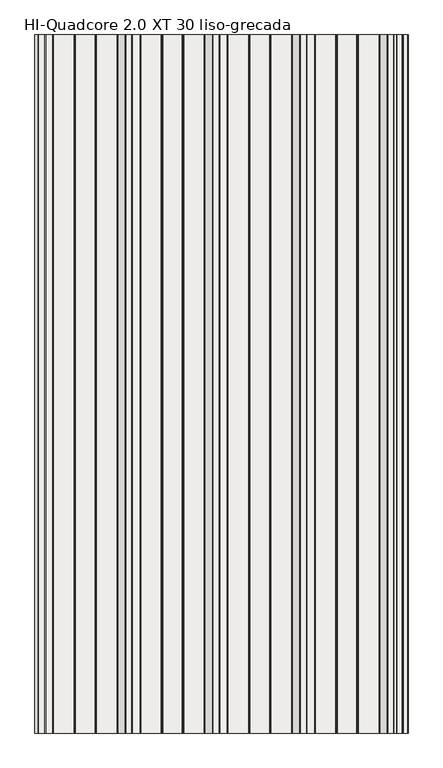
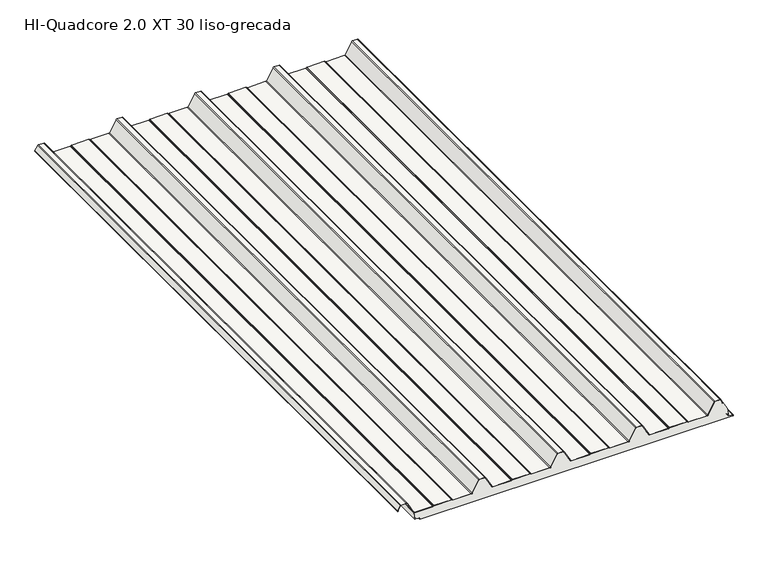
"""IFC4 building model written with IfcOpenShell, lengths in millimetres: slab geometry, HI_QuadCore2.0XT-XT DUAL : HI-Quadcore 2.0 XT 30 liso-grecada."""

from ifc_helpers import new_model, si_unit, point, frame, frame_2d, origin, place, context, project, spatial, polyline, circle_curve, trimmed, segment, composite_curve, outline, extrude, source, transform, mapped, element, save


def hi_quadcore_2_0_xt_30_liso_grecada_0a3880c4(model_context):
    return source(origin(), model_context, "Body", "SweptSolid", [
        extrude(outline(composite_curve([segment(polyline([(68.1649405, 138.5141429), (53.6579587, 130.3539656)]), True, "CONTINUOUS"), segment(trimmed(circle_curve(frame_2d((53.0451321, 131.443435)), 1.25), [point((53.6579587, 130.3539656))], [point((52.689225, 132.6416963))], False, "CARTESIAN"), True, "CONTINUOUS"), segment(polyline([(52.689225, 132.6416963), (55.7359115, 133.437141), (55.9380053, 132.663088), (52.9074492, 131.8718547)]), True, "CONTINUOUS"), segment(trimmed(circle_curve(frame_2d((53.0451321, 131.443435)), 0.45), [point((52.9074492, 131.8718547))], [point((53.2657497, 131.051226))], True, "CARTESIAN"), True, "CONTINUOUS"), segment(polyline([(53.2657497, 131.051226), (67.7727315, 139.2114033)]), True, "CONTINUOUS"), segment(trimmed(circle_curve(frame_2d((66.4, 141.6518148)), 2.8), [point((67.7727315, 139.2114033))], [point((69.2, 141.6518148))], True, "CARTESIAN"), True, "CONTINUOUS"), segment(polyline([(69.2, 141.6518148), (69.2, 158.9311117)]), True, "CONTINUOUS"), segment(trimmed(circle_curve(frame_2d((66.4, 158.9311117)), 2.8), [point((69.2, 158.9311117))], [point((67.5457267, 161.4859719))], True, "CARTESIAN"), True, "CONTINUOUS"), segment(polyline([(67.5457267, 161.4859719), (31.2048889, 181.3052775)]), True, "CONTINUOUS"), segment(trimmed(circle_curve(frame_2d((33.0, 184.6545425)), 3.8), [point((31.2048889, 181.3052775))], [point((29.2, 184.6545425))], False, "CARTESIAN"), True, "CONTINUOUS"), segment(polyline([(29.2, 184.6545425), (29.2, 242.4489557)]), True, "CONTINUOUS"), segment(trimmed(circle_curve(frame_2d((33.0, 242.4489557)), 3.8), [point((29.2, 242.4489557))], [point((29.6973596, 244.328468))], False, "CARTESIAN"), True, "CONTINUOUS"), segment(polyline([(29.6973596, 244.328468), (30.912055, 246.4629056)]), True, "CONTINUOUS"), segment(trimmed(circle_curve(frame_2d((29.0, 247.5510443)), 2.2), [point((30.912055, 246.4629056))], [point((31.2, 247.5510443))], True, "CARTESIAN"), True, "CONTINUOUS"), segment(polyline([(31.2, 247.5510443), (31.2, 302.4489557)]), True, "CONTINUOUS"), segment(trimmed(circle_curve(frame_2d((29.0, 302.4489557)), 2.2), [point((31.2, 302.4489557))], [point((30.912055, 303.5370944))], True, "CARTESIAN"), True, "CONTINUOUS"), segment(polyline([(30.912055, 303.5370944), (29.6973596, 305.671532)]), True, "CONTINUOUS"), segment(trimmed(circle_curve(frame_2d((33.0, 307.5510443)), 3.8), [point((29.6973596, 305.671532))], [point((29.2, 307.5510443))], False, "CARTESIAN"), True, "CONTINUOUS"), segment(polyline([(29.2, 307.5510443), (29.2, 365.7454575)]), True, "CONTINUOUS"), segment(trimmed(circle_curve(frame_2d((33.0, 365.7454575)), 3.8), [point((29.2, 365.7454575))], [point((31.1370073, 369.0574446))], False, "CARTESIAN"), True, "CONTINUOUS"), segment(polyline([(31.1370073, 369.0574446), (68.0785747, 389.8370763)]), True, "CONTINUOUS"), segment(trimmed(circle_curve(frame_2d((67.0, 391.7545425)), 2.2), [point((68.0785747, 389.8370763))], [point((69.2, 391.7545425))], True, "CARTESIAN"), True, "CONTINUOUS"), segment(polyline([(69.2, 391.7545425), (69.2, 408.2454575)]), True, "CONTINUOUS"), segment(trimmed(circle_curve(frame_2d((67.0, 408.2454575)), 2.2), [point((69.2, 408.2454575))], [point((68.0785747, 410.1629237))], True, "CARTESIAN"), True, "CONTINUOUS"), segment(polyline([(68.0785747, 410.1629237), (31.1370073, 430.9425554)]), True, "CONTINUOUS"), segment(trimmed(circle_curve(frame_2d((33.0, 434.2545425)), 3.8), [point((31.1370073, 430.9425554))], [point((29.2, 434.2545425))], False, "CARTESIAN"), True, "CONTINUOUS"), segment(polyline([(29.2, 434.2545425), (29.2, 492.4489557)]), True, "CONTINUOUS"), segment(trimmed(circle_curve(frame_2d((33.0, 492.4489557)), 3.8), [point((29.2, 492.4489557))], [point((29.6973596, 494.328468))], False, "CARTESIAN"), True, "CONTINUOUS"), segment(polyline([(29.6973596, 494.328468), (30.912055, 496.4629056)]), True, "CONTINUOUS"), segment(trimmed(circle_curve(frame_2d((29.0, 497.5510443)), 2.2), [point((30.912055, 496.4629056))], [point((31.2, 497.5510443))], True, "CARTESIAN"), True, "CONTINUOUS"), segment(polyline([(31.2, 497.5510443), (31.2, 552.4489557)]), True, "CONTINUOUS"), segment(trimmed(circle_curve(frame_2d((29.0, 552.4489557)), 2.2), [point((31.2, 552.4489557))], [point((30.912055, 553.5370944))], True, "CARTESIAN"), True, "CONTINUOUS"), segment(polyline([(30.912055, 553.5370944), (29.6973596, 555.671532)]), True, "CONTINUOUS"), segment(trimmed(circle_curve(frame_2d((33.0, 557.5510443)), 3.8), [point((29.6973596, 555.671532))], [point((29.2, 557.5510443))], False, "CARTESIAN"), True, "CONTINUOUS"), segment(polyline([(29.2, 557.5510443), (29.2, 615.7454575)]), True, "CONTINUOUS"), segment(trimmed(circle_curve(frame_2d((33.0, 615.7454575)), 3.8), [point((29.2, 615.7454575))], [point((31.1370073, 619.0574446))], False, "CARTESIAN"), True, "CONTINUOUS"), segment(polyline([(31.1370073, 619.0574446), (68.0785747, 639.8370763)]), True, "CONTINUOUS"), segment(trimmed(circle_curve(frame_2d((67.0, 641.7545425)), 2.2), [point((68.0785747, 639.8370763))], [point((69.2, 641.7545425))], True, "CARTESIAN"), True, "CONTINUOUS"), segment(polyline([(69.2, 641.7545425), (69.2, 658.2454575)]), True, "CONTINUOUS"), segment(trimmed(circle_curve(frame_2d((67.0, 658.2454575)), 2.2), [point((69.2, 658.2454575))], [point((68.0785747, 660.1629237))], True, "CARTESIAN"), True, "CONTINUOUS"), segment(polyline([(68.0785747, 660.1629237), (31.1370073, 680.9425554)]), True, "CONTINUOUS"), segment(trimmed(circle_curve(frame_2d((33.0, 684.2545425)), 3.8), [point((31.1370073, 680.9425554))], [point((29.2, 684.2545425))], False, "CARTESIAN"), True, "CONTINUOUS"), segment(polyline([(29.2, 684.2545425), (29.2, 742.4489557)]), True, "CONTINUOUS"), segment(trimmed(circle_curve(frame_2d((33.0, 742.4489557)), 3.8), [point((29.2, 742.4489557))], [point((29.6973596, 744.328468))], False, "CARTESIAN"), True, "CONTINUOUS"), segment(polyline([(29.6973596, 744.328468), (30.912055, 746.4629056)]), True, "CONTINUOUS"), segment(trimmed(circle_curve(frame_2d((29.0, 747.5510443)), 2.2), [point((30.912055, 746.4629056))], [point((31.2, 747.5510443))], True, "CARTESIAN"), True, "CONTINUOUS"), segment(polyline([(31.2, 747.5510443), (31.2, 802.4489557)]), True, "CONTINUOUS"), segment(trimmed(circle_curve(frame_2d((29.0, 802.4489557)), 2.2), [point((31.2, 802.4489557))], [point((30.912055, 803.5370944))], True, "CARTESIAN"), True, "CONTINUOUS"), segment(polyline([(30.912055, 803.5370944), (29.6973596, 805.671532)]), True, "CONTINUOUS"), segment(trimmed(circle_curve(frame_2d((33.0, 807.5510443)), 3.8), [point((29.6973596, 805.671532))], [point((29.2, 807.5510443))], False, "CARTESIAN"), True, "CONTINUOUS"), segment(polyline([(29.2, 807.5510443), (29.2, 865.7454575)]), True, "CONTINUOUS"), segment(trimmed(circle_curve(frame_2d((33.0, 865.7454575)), 3.8), [point((29.2, 865.7454575))], [point((31.1370073, 869.0574446))], False, "CARTESIAN"), True, "CONTINUOUS"), segment(polyline([(31.1370073, 869.0574446), (68.0785747, 889.8370763)]), True, "CONTINUOUS"), segment(trimmed(circle_curve(frame_2d((67.0, 891.7545425)), 2.2), [point((68.0785747, 889.8370763))], [point((69.2, 891.7545425))], True, "CARTESIAN"), True, "CONTINUOUS"), segment(polyline([(69.2, 891.7545425), (69.2, 908.2454575)]), True, "CONTINUOUS"), segment(trimmed(circle_curve(frame_2d((67.0, 908.2454575)), 2.2), [point((69.2, 908.2454575))], [point((68.0785747, 910.1629237))], True, "CARTESIAN"), True, "CONTINUOUS"), segment(polyline([(68.0785747, 910.1629237), (31.1370073, 930.9425554)]), True, "CONTINUOUS"), segment(trimmed(circle_curve(frame_2d((33.0, 934.2545425)), 3.8), [point((31.1370073, 930.9425554))], [point((29.2, 934.2545425))], False, "CARTESIAN"), True, "CONTINUOUS"), segment(polyline([(29.2, 934.2545425), (29.2, 992.4489557)]), True, "CONTINUOUS"), segment(trimmed(circle_curve(frame_2d((33.0, 992.4489557)), 3.8), [point((29.2, 992.4489557))], [point((29.6973596, 994.328468))], False, "CARTESIAN"), True, "CONTINUOUS"), segment(polyline([(29.6973596, 994.328468), (30.912055, 996.4629056)]), True, "CONTINUOUS"), segment(trimmed(circle_curve(frame_2d((29.0, 997.5510443)), 2.2), [point((30.912055, 996.4629056))], [point((31.2, 997.5510443))], True, "CARTESIAN"), True, "CONTINUOUS"), segment(polyline([(31.2, 997.5510443), (31.2, 1052.4489557)]), True, "CONTINUOUS"), segment(trimmed(circle_curve(frame_2d((29.0, 1052.4489557)), 2.2), [point((31.2, 1052.4489557))], [point((30.912055, 1053.5370944))], True, "CARTESIAN"), True, "CONTINUOUS"), segment(polyline([(30.912055, 1053.5370944), (29.6973596, 1055.671532)]), True, "CONTINUOUS"), segment(trimmed(circle_curve(frame_2d((33.0, 1057.5510443)), 3.8), [point((29.6973596, 1055.671532))], [point((29.2, 1057.5510443))], False, "CARTESIAN"), True, "CONTINUOUS"), segment(polyline([(29.2, 1057.5510443), (29.2, 1116.4208923)]), True, "CONTINUOUS"), segment(trimmed(circle_curve(frame_2d((33.0, 1116.4208923)), 3.8), [point((29.2, 1116.4208923))], [point((31.1583504, 1119.7447946))], False, "CARTESIAN"), True, "CONTINUOUS"), segment(polyline([(31.1583504, 1119.7447946), (68.0662182, 1140.1940602)]), True, "CONTINUOUS"), segment(trimmed(circle_curve(frame_2d((67.0, 1142.1184247)), 2.2), [point((68.0662182, 1140.1940602))], [point((69.2, 1142.1184247))], True, "CARTESIAN"), True, "CONTINUOUS"), segment(polyline([(69.2, 1142.1184247), (69.2, 1157.4945491)]), True, "CONTINUOUS"), segment(trimmed(circle_curve(frame_2d((67.0, 1157.4945491)), 2.2), [point((69.2, 1157.4945491))], [point((68.0785747, 1159.4120152))], True, "CARTESIAN"), True, "CONTINUOUS"), segment(polyline([(68.0785747, 1159.4120152), (57.5275176, 1165.3469849)]), True, "CONTINUOUS"), segment(trimmed(circle_curve(frame_2d((56.9392041, 1164.3010942)), 1.2), [point((57.5275176, 1165.3469849))], [point((56.3392623, 1165.3403583))], True, "CARTESIAN"), True, "CONTINUOUS"), segment(polyline([(56.3392623, 1165.3403583), (54.7281681, 1164.4103128), (54.3282068, 1165.1031555), (55.939301, 1166.033201)]), True, "CONTINUOUS"), segment(trimmed(circle_curve(frame_2d((56.9392041, 1164.3010942)), 2.0), [point((55.939301, 1166.033201))], [point((57.9197266, 1166.0442453))], False, "CARTESIAN"), True, "CONTINUOUS"), segment(polyline([(57.9197266, 1166.0442453), (68.4707837, 1160.1092757)]), True, "CONTINUOUS"), segment(trimmed(circle_curve(frame_2d((67.0, 1157.4945491)), 3.0), [point((68.4707837, 1160.1092757))], [point((70.0, 1157.4945491))], False, "CARTESIAN"), True, "CONTINUOUS"), segment(polyline([(70.0, 1157.4945491), (70.0, 1142.1184247)]), True, "CONTINUOUS"), segment(trimmed(circle_curve(frame_2d((67.0, 1142.1184247)), 3.0), [point((70.0, 1142.1184247))], [point((68.4539339, 1139.4942913))], False, "CARTESIAN"), True, "CONTINUOUS"), segment(polyline([(68.4539339, 1139.4942913), (31.5460661, 1119.0450257)]), True, "CONTINUOUS"), segment(trimmed(circle_curve(frame_2d((33.0, 1116.4208923)), 3.0), [point((31.5460661, 1119.0450257))], [point((30.0, 1116.4208923))], True, "CARTESIAN"), True, "CONTINUOUS"), segment(polyline([(30.0, 1116.4208923), (30.0, 1057.5510443)]), True, "CONTINUOUS"), segment(trimmed(circle_curve(frame_2d((33.0, 1057.5510443)), 3.0), [point((30.0, 1057.5510443))], [point((30.3926523, 1056.0672188))], True, "CARTESIAN"), True, "CONTINUOUS"), segment(polyline([(30.3926523, 1056.0672188), (31.6073477, 1053.9327812)]), True, "CONTINUOUS"), segment(trimmed(circle_curve(frame_2d((29.0, 1052.4489557)), 3.0), [point((31.6073477, 1053.9327812))], [point((32.0, 1052.4489557))], False, "CARTESIAN"), True, "CONTINUOUS"), segment(polyline([(32.0, 1052.4489557), (32.0, 997.5510443)]), True, "CONTINUOUS"), segment(trimmed(circle_curve(frame_2d((29.0, 997.5510443)), 3.0), [point((32.0, 997.5510443))], [point((31.6073477, 996.0672188))], False, "CARTESIAN"), True, "CONTINUOUS"), segment(polyline([(31.6073477, 996.0672188), (30.3926523, 993.9327812)]), True, "CONTINUOUS"), segment(trimmed(circle_curve(frame_2d((33.0, 992.4489557)), 3.0), [point((30.3926523, 993.9327812))], [point((30.0, 992.4489557))], True, "CARTESIAN"), True, "CONTINUOUS"), segment(polyline([(30.0, 992.4489557), (30.0, 934.2545425)]), True, "CONTINUOUS"), segment(trimmed(circle_curve(frame_2d((33.0, 934.2545425)), 3.0), [point((30.0, 934.2545425))], [point((31.5292163, 931.6398158))], True, "CARTESIAN"), True, "CONTINUOUS"), segment(polyline([(31.5292163, 931.6398158), (68.4707837, 910.8601842)]), True, "CONTINUOUS"), segment(trimmed(circle_curve(frame_2d((67.0, 908.2454575)), 3.0), [point((68.4707837, 910.8601842))], [point((70.0, 908.2454575))], False, "CARTESIAN"), True, "CONTINUOUS"), segment(polyline([(70.0, 908.2454575), (70.0, 891.7545425)]), True, "CONTINUOUS"), segment(trimmed(circle_curve(frame_2d((67.0, 891.7545425)), 3.0), [point((70.0, 891.7545425))], [point((68.4707837, 889.1398158))], False, "CARTESIAN"), True, "CONTINUOUS"), segment(polyline([(68.4707837, 889.1398158), (31.5292163, 868.3601842)]), True, "CONTINUOUS"), segment(trimmed(circle_curve(frame_2d((33.0, 865.7454575)), 3.0), [point((31.5292163, 868.3601842))], [point((30.0, 865.7454575))], True, "CARTESIAN"), True, "CONTINUOUS"), segment(polyline([(30.0, 865.7454575), (30.0, 807.5510443)]), True, "CONTINUOUS"), segment(trimmed(circle_curve(frame_2d((33.0, 807.5510443)), 3.0), [point((30.0, 807.5510443))], [point((30.3926523, 806.0672188))], True, "CARTESIAN"), True, "CONTINUOUS"), segment(polyline([(30.3926523, 806.0672188), (31.6073477, 803.9327812)]), True, "CONTINUOUS"), segment(trimmed(circle_curve(frame_2d((29.0, 802.4489557)), 3.0), [point((31.6073477, 803.9327812))], [point((32.0, 802.4489557))], False, "CARTESIAN"), True, "CONTINUOUS"), segment(polyline([(32.0, 802.4489557), (32.0, 747.5510443)]), True, "CONTINUOUS"), segment(trimmed(circle_curve(frame_2d((29.0, 747.5510443)), 3.0), [point((32.0, 747.5510443))], [point((31.6073477, 746.0672188))], False, "CARTESIAN"), True, "CONTINUOUS"), segment(polyline([(31.6073477, 746.0672188), (30.3926523, 743.9327812)]), True, "CONTINUOUS"), segment(trimmed(circle_curve(frame_2d((33.0, 742.4489557)), 3.0), [point((30.3926523, 743.9327812))], [point((30.0, 742.4489557))], True, "CARTESIAN"), True, "CONTINUOUS"), segment(polyline([(30.0, 742.4489557), (30.0, 684.2545425)]), True, "CONTINUOUS"), segment(trimmed(circle_curve(frame_2d((33.0, 684.2545425)), 3.0), [point((30.0, 684.2545425))], [point((31.5292163, 681.6398158))], True, "CARTESIAN"), True, "CONTINUOUS"), segment(polyline([(31.5292163, 681.6398158), (68.4707837, 660.8601842)]), True, "CONTINUOUS"), segment(trimmed(circle_curve(frame_2d((67.0, 658.2454575)), 3.0), [point((68.4707837, 660.8601842))], [point((70.0, 658.2454575))], False, "CARTESIAN"), True, "CONTINUOUS"), segment(polyline([(70.0, 658.2454575), (70.0, 641.7545425)]), True, "CONTINUOUS"), segment(trimmed(circle_curve(frame_2d((67.0, 641.7545425)), 3.0), [point((70.0, 641.7545425))], [point((68.4707837, 639.1398158))], False, "CARTESIAN"), True, "CONTINUOUS"), segment(polyline([(68.4707837, 639.1398158), (31.5292163, 618.3601842)]), True, "CONTINUOUS"), segment(trimmed(circle_curve(frame_2d((33.0, 615.7454575)), 3.0), [point((31.5292163, 618.3601842))], [point((30.0, 615.7454575))], True, "CARTESIAN"), True, "CONTINUOUS"), segment(polyline([(30.0, 615.7454575), (30.0, 557.5510443)]), True, "CONTINUOUS"), segment(trimmed(circle_curve(frame_2d((33.0, 557.5510443)), 3.0), [point((30.0, 557.5510443))], [point((30.3926523, 556.0672188))], True, "CARTESIAN"), True, "CONTINUOUS"), segment(polyline([(30.3926523, 556.0672188), (31.6073477, 553.9327812)]), True, "CONTINUOUS"), segment(trimmed(circle_curve(frame_2d((29.0, 552.4489557)), 3.0), [point((31.6073477, 553.9327812))], [point((32.0, 552.4489557))], False, "CARTESIAN"), True, "CONTINUOUS"), segment(polyline([(32.0, 552.4489557), (32.0, 497.5510443)]), True, "CONTINUOUS"), segment(trimmed(circle_curve(frame_2d((29.0, 497.5510443)), 3.0), [point((32.0, 497.5510443))], [point((31.6073477, 496.0672188))], False, "CARTESIAN"), True, "CONTINUOUS"), segment(polyline([(31.6073477, 496.0672188), (30.3926523, 493.9327812)]), True, "CONTINUOUS"), segment(trimmed(circle_curve(frame_2d((33.0, 492.4489557)), 3.0), [point((30.3926523, 493.9327812))], [point((30.0, 492.4489557))], True, "CARTESIAN"), True, "CONTINUOUS"), segment(polyline([(30.0, 492.4489557), (30.0, 434.2545425)]), True, "CONTINUOUS"), segment(trimmed(circle_curve(frame_2d((33.0, 434.2545425)), 3.0), [point((30.0, 434.2545425))], [point((31.5292163, 431.6398158))], True, "CARTESIAN"), True, "CONTINUOUS"), segment(polyline([(31.5292163, 431.6398158), (68.4707837, 410.8601842)]), True, "CONTINUOUS"), segment(trimmed(circle_curve(frame_2d((67.0, 408.2454575)), 3.0), [point((68.4707837, 410.8601842))], [point((70.0, 408.2454575))], False, "CARTESIAN"), True, "CONTINUOUS"), segment(polyline([(70.0, 408.2454575), (70.0, 391.7545425)]), True, "CONTINUOUS"), segment(trimmed(circle_curve(frame_2d((67.0, 391.7545425)), 3.0), [point((70.0, 391.7545425))], [point((68.4707837, 389.1398158))], False, "CARTESIAN"), True, "CONTINUOUS"), segment(polyline([(68.4707837, 389.1398158), (31.5292163, 368.3601842)]), True, "CONTINUOUS"), segment(trimmed(circle_curve(frame_2d((33.0, 365.7454575)), 3.0), [point((31.5292163, 368.3601842))], [point((30.0, 365.7454575))], True, "CARTESIAN"), True, "CONTINUOUS"), segment(polyline([(30.0, 365.7454575), (30.0, 307.5510443)]), True, "CONTINUOUS"), segment(trimmed(circle_curve(frame_2d((33.0, 307.5510443)), 3.0), [point((30.0, 307.5510443))], [point((30.3926523, 306.0672188))], True, "CARTESIAN"), True, "CONTINUOUS"), segment(polyline([(30.3926523, 306.0672188), (31.6073477, 303.9327812)]), True, "CONTINUOUS"), segment(trimmed(circle_curve(frame_2d((29.0, 302.4489557)), 3.0), [point((31.6073477, 303.9327812))], [point((32.0, 302.4489557))], False, "CARTESIAN"), True, "CONTINUOUS"), segment(polyline([(32.0, 302.4489557), (32.0, 247.5510443)]), True, "CONTINUOUS"), segment(trimmed(circle_curve(frame_2d((29.0, 247.5510443)), 3.0), [point((32.0, 247.5510443))], [point((31.6073477, 246.0672188))], False, "CARTESIAN"), True, "CONTINUOUS"), segment(polyline([(31.6073477, 246.0672188), (30.3926523, 243.9327812)]), True, "CONTINUOUS"), segment(trimmed(circle_curve(frame_2d((33.0, 242.4489557)), 3.0), [point((30.3926523, 243.9327812))], [point((30.0, 242.4489557))], True, "CARTESIAN"), True, "CONTINUOUS"), segment(polyline([(30.0, 242.4489557), (30.0, 184.6545425)]), True, "CONTINUOUS"), segment(trimmed(circle_curve(frame_2d((33.0, 184.6545425)), 3.0), [point((30.0, 184.6545425))], [point((31.5852209, 182.0090935))], True, "CARTESIAN"), True, "CONTINUOUS"), segment(polyline([(31.5852209, 182.0090935), (67.9031732, 162.2022691)]), True, "CONTINUOUS"), segment(trimmed(circle_curve(frame_2d((66.4, 158.9311117)), 3.6), [point((67.9031732, 162.2022691))], [point((70.0, 158.9311117))], False, "CARTESIAN"), True, "CONTINUOUS"), segment(polyline([(70.0, 158.9311117), (70.0, 141.6518148)]), True, "CONTINUOUS"), segment(trimmed(circle_curve(frame_2d((66.4, 141.6518148)), 3.6), [point((70.0, 141.6518148))], [point((68.1649405, 138.5141429))], False, "CARTESIAN"), True, "CONTINUOUS")], self_intersect=False)), frame((0.0, 0.0, 0.0), z_axis=(0.0, 1.0, 0.0), x_axis=(0.0, 0.0, 1.0)), (0.0, 0.0, 1.0), 2000.0),
        extrude(outline(composite_curve([segment(polyline([(31.2667387, 1181.036551), (57.9197266, 1166.0442453)]), True, "CONTINUOUS"), segment(trimmed(circle_curve(frame_2d((56.9392041, 1164.3010942)), 2.0), [point((57.9197266, 1166.0442453))], [point((55.939301, 1166.033201))], True, "CARTESIAN"), True, "CONTINUOUS"), segment(polyline([(55.939301, 1166.033201), (54.3282068, 1165.1031555), (54.7281681, 1164.4103128), (56.3392623, 1165.3403583)]), True, "CONTINUOUS"), segment(trimmed(circle_curve(frame_2d((56.9392041, 1164.3010942)), 1.2), [point((56.3392623, 1165.3403583))], [point((57.5275176, 1165.3469849))], False, "CARTESIAN"), True, "CONTINUOUS"), segment(polyline([(57.5275176, 1165.3469849), (68.0785747, 1159.4120152)]), True, "CONTINUOUS"), segment(trimmed(circle_curve(frame_2d((67.0, 1157.4945491)), 2.2), [point((68.0785747, 1159.4120152))], [point((69.2, 1157.4945491))], False, "CARTESIAN"), True, "CONTINUOUS"), segment(polyline([(69.2, 1157.4945491), (69.2, 1142.1184247)]), True, "CONTINUOUS"), segment(trimmed(circle_curve(frame_2d((67.0, 1142.1184247)), 2.2), [point((69.2, 1142.1184247))], [point((68.0662182, 1140.1940602))], False, "CARTESIAN"), True, "CONTINUOUS"), segment(polyline([(68.0662182, 1140.1940602), (31.1583504, 1119.7447946)]), True, "CONTINUOUS"), segment(trimmed(circle_curve(frame_2d((33.0, 1116.4208923)), 3.8), [point((31.1583504, 1119.7447946))], [point((29.2, 1116.4208923))], True, "CARTESIAN"), True, "CONTINUOUS"), segment(polyline([(29.2, 1116.4208923), (29.2, 1057.5510443)]), True, "CONTINUOUS"), segment(trimmed(circle_curve(frame_2d((33.0, 1057.5510443)), 3.8), [point((29.2, 1057.5510443))], [point((29.6973596, 1055.671532))], True, "CARTESIAN"), True, "CONTINUOUS"), segment(polyline([(29.6973596, 1055.671532), (30.912055, 1053.5370944)]), True, "CONTINUOUS"), segment(trimmed(circle_curve(frame_2d((29.0, 1052.4489557)), 2.2), [point((30.912055, 1053.5370944))], [point((31.2, 1052.4489557))], False, "CARTESIAN"), True, "CONTINUOUS"), segment(polyline([(31.2, 1052.4489557), (31.2, 997.5510443)]), True, "CONTINUOUS"), segment(trimmed(circle_curve(frame_2d((29.0, 997.5510443)), 2.2), [point((31.2, 997.5510443))], [point((30.912055, 996.4629056))], False, "CARTESIAN"), True, "CONTINUOUS"), segment(polyline([(30.912055, 996.4629056), (29.6973596, 994.328468)]), True, "CONTINUOUS"), segment(trimmed(circle_curve(frame_2d((33.0, 992.4489557)), 3.8), [point((29.6973596, 994.328468))], [point((29.2, 992.4489557))], True, "CARTESIAN"), True, "CONTINUOUS"), segment(polyline([(29.2, 992.4489557), (29.2, 934.2545425)]), True, "CONTINUOUS"), segment(trimmed(circle_curve(frame_2d((33.0, 934.2545425)), 3.8), [point((29.2, 934.2545425))], [point((31.1370073, 930.9425554))], True, "CARTESIAN"), True, "CONTINUOUS"), segment(polyline([(31.1370073, 930.9425554), (68.0785747, 910.1629237)]), True, "CONTINUOUS"), segment(trimmed(circle_curve(frame_2d((67.0, 908.2454575)), 2.2), [point((68.0785747, 910.1629237))], [point((69.2, 908.2454575))], False, "CARTESIAN"), True, "CONTINUOUS"), segment(polyline([(69.2, 908.2454575), (69.2, 891.7545425)]), True, "CONTINUOUS"), segment(trimmed(circle_curve(frame_2d((67.0, 891.7545425)), 2.2), [point((69.2, 891.7545425))], [point((68.0785747, 889.8370763))], False, "CARTESIAN"), True, "CONTINUOUS"), segment(polyline([(68.0785747, 889.8370763), (31.1370073, 869.0574446)]), True, "CONTINUOUS"), segment(trimmed(circle_curve(frame_2d((33.0, 865.7454575)), 3.8), [point((31.1370073, 869.0574446))], [point((29.2, 865.7454575))], True, "CARTESIAN"), True, "CONTINUOUS"), segment(polyline([(29.2, 865.7454575), (29.2, 807.5510443)]), True, "CONTINUOUS"), segment(trimmed(circle_curve(frame_2d((33.0, 807.5510443)), 3.8), [point((29.2, 807.5510443))], [point((29.6973596, 805.671532))], True, "CARTESIAN"), True, "CONTINUOUS"), segment(polyline([(29.6973596, 805.671532), (30.912055, 803.5370944)]), True, "CONTINUOUS"), segment(trimmed(circle_curve(frame_2d((29.0, 802.4489557)), 2.2), [point((30.912055, 803.5370944))], [point((31.2, 802.4489557))], False, "CARTESIAN"), True, "CONTINUOUS"), segment(polyline([(31.2, 802.4489557), (31.2, 747.5510443)]), True, "CONTINUOUS"), segment(trimmed(circle_curve(frame_2d((29.0, 747.5510443)), 2.2), [point((31.2, 747.5510443))], [point((30.912055, 746.4629056))], False, "CARTESIAN"), True, "CONTINUOUS"), segment(polyline([(30.912055, 746.4629056), (29.6973596, 744.328468)]), True, "CONTINUOUS"), segment(trimmed(circle_curve(frame_2d((33.0, 742.4489557)), 3.8), [point((29.6973596, 744.328468))], [point((29.2, 742.4489557))], True, "CARTESIAN"), True, "CONTINUOUS"), segment(polyline([(29.2, 742.4489557), (29.2, 684.2545425)]), True, "CONTINUOUS"), segment(trimmed(circle_curve(frame_2d((33.0, 684.2545425)), 3.8), [point((29.2, 684.2545425))], [point((31.1370073, 680.9425554))], True, "CARTESIAN"), True, "CONTINUOUS"), segment(polyline([(31.1370073, 680.9425554), (68.0785747, 660.1629237)]), True, "CONTINUOUS"), segment(trimmed(circle_curve(frame_2d((67.0, 658.2454575)), 2.2), [point((68.0785747, 660.1629237))], [point((69.2, 658.2454575))], False, "CARTESIAN"), True, "CONTINUOUS"), segment(polyline([(69.2, 658.2454575), (69.2, 641.7545425)]), True, "CONTINUOUS"), segment(trimmed(circle_curve(frame_2d((67.0, 641.7545425)), 2.2), [point((69.2, 641.7545425))], [point((68.0785747, 639.8370763))], False, "CARTESIAN"), True, "CONTINUOUS"), segment(polyline([(68.0785747, 639.8370763), (31.1370073, 619.0574446)]), True, "CONTINUOUS"), segment(trimmed(circle_curve(frame_2d((33.0, 615.7454575)), 3.8), [point((31.1370073, 619.0574446))], [point((29.2, 615.7454575))], True, "CARTESIAN"), True, "CONTINUOUS"), segment(polyline([(29.2, 615.7454575), (29.2, 557.5510443)]), True, "CONTINUOUS"), segment(trimmed(circle_curve(frame_2d((33.0, 557.5510443)), 3.8), [point((29.2, 557.5510443))], [point((29.6973596, 555.671532))], True, "CARTESIAN"), True, "CONTINUOUS"), segment(polyline([(29.6973596, 555.671532), (30.912055, 553.5370944)]), True, "CONTINUOUS"), segment(trimmed(circle_curve(frame_2d((29.0, 552.4489557)), 2.2), [point((30.912055, 553.5370944))], [point((31.2, 552.4489557))], False, "CARTESIAN"), True, "CONTINUOUS"), segment(polyline([(31.2, 552.4489557), (31.2, 497.5510443)]), True, "CONTINUOUS"), segment(trimmed(circle_curve(frame_2d((29.0, 497.5510443)), 2.2), [point((31.2, 497.5510443))], [point((30.912055, 496.4629056))], False, "CARTESIAN"), True, "CONTINUOUS"), segment(polyline([(30.912055, 496.4629056), (29.6973596, 494.328468)]), True, "CONTINUOUS"), segment(trimmed(circle_curve(frame_2d((33.0, 492.4489557)), 3.8), [point((29.6973596, 494.328468))], [point((29.2, 492.4489557))], True, "CARTESIAN"), True, "CONTINUOUS"), segment(polyline([(29.2, 492.4489557), (29.2, 434.2545425)]), True, "CONTINUOUS"), segment(trimmed(circle_curve(frame_2d((33.0, 434.2545425)), 3.8), [point((29.2, 434.2545425))], [point((31.1370073, 430.9425554))], True, "CARTESIAN"), True, "CONTINUOUS"), segment(polyline([(31.1370073, 430.9425554), (68.0785747, 410.1629237)]), True, "CONTINUOUS"), segment(trimmed(circle_curve(frame_2d((67.0, 408.2454575)), 2.2), [point((68.0785747, 410.1629237))], [point((69.2, 408.2454575))], False, "CARTESIAN"), True, "CONTINUOUS"), segment(polyline([(69.2, 408.2454575), (69.2, 391.7545425)]), True, "CONTINUOUS"), segment(trimmed(circle_curve(frame_2d((67.0, 391.7545425)), 2.2), [point((69.2, 391.7545425))], [point((68.0785747, 389.8370763))], False, "CARTESIAN"), True, "CONTINUOUS"), segment(polyline([(68.0785747, 389.8370763), (31.1370073, 369.0574446)]), True, "CONTINUOUS"), segment(trimmed(circle_curve(frame_2d((33.0, 365.7454575)), 3.8), [point((31.1370073, 369.0574446))], [point((29.2, 365.7454575))], True, "CARTESIAN"), True, "CONTINUOUS"), segment(polyline([(29.2, 365.7454575), (29.2, 307.5510443)]), True, "CONTINUOUS"), segment(trimmed(circle_curve(frame_2d((33.0, 307.5510443)), 3.8), [point((29.2, 307.5510443))], [point((29.6973596, 305.671532))], True, "CARTESIAN"), True, "CONTINUOUS"), segment(polyline([(29.6973596, 305.671532), (30.912055, 303.5370944)]), True, "CONTINUOUS"), segment(trimmed(circle_curve(frame_2d((29.0, 302.4489557)), 2.2), [point((30.912055, 303.5370944))], [point((31.2, 302.4489557))], False, "CARTESIAN"), True, "CONTINUOUS"), segment(polyline([(31.2, 302.4489557), (31.2, 247.5510443)]), True, "CONTINUOUS"), segment(trimmed(circle_curve(frame_2d((29.0, 247.5510443)), 2.2), [point((31.2, 247.5510443))], [point((30.912055, 246.4629056))], False, "CARTESIAN"), True, "CONTINUOUS"), segment(polyline([(30.912055, 246.4629056), (29.6973596, 244.328468)]), True, "CONTINUOUS"), segment(trimmed(circle_curve(frame_2d((33.0, 242.4489557)), 3.8), [point((29.6973596, 244.328468))], [point((29.2, 242.4489557))], True, "CARTESIAN"), True, "CONTINUOUS"), segment(polyline([(29.2, 242.4489557), (29.2, 184.6545425)]), True, "CONTINUOUS"), segment(trimmed(circle_curve(frame_2d((33.0, 184.6545425)), 3.8), [point((29.2, 184.6545425))], [point((31.2048889, 181.3052775))], True, "CARTESIAN"), True, "CONTINUOUS"), segment(polyline([(31.2048889, 181.3052775), (7.0308356, 184.4622222), (7.2414508, 185.8457731), (11.9758652, 185.8456418)]), True, "CONTINUOUS"), segment(trimmed(circle_curve(frame_2d((11.9759207, 187.8456418)), 2.0), [point((11.9758652, 185.8456418))], [point((13.390095, 186.4313891))], True, "CARTESIAN"), True, "CONTINUOUS"), segment(polyline([(13.390095, 186.4313891), (15.4963556, 188.5375329), (14.9306702, 189.1032183), (12.8244253, 186.9970902)]), True, "CONTINUOUS"), segment(trimmed(circle_curve(frame_2d((11.9759207, 187.8456418)), 1.2), [point((12.8244253, 186.9970902))], [point((11.9758874, 186.6456418))], False, "CARTESIAN"), True, "CONTINUOUS"), segment(polyline([(11.9758874, 186.6456418), (8.3337062, 186.6457428)]), True, "CONTINUOUS"), segment(trimmed(circle_curve(frame_2d((8.3337394, 187.8457428)), 1.2), [point((8.3337062, 186.6457428))], [point((7.1369439, 187.7581044))], False, "CARTESIAN"), True, "CONTINUOUS"), segment(polyline([(7.1369439, 187.7581044), (6.3740035, 198.1768616)]), True, "CONTINUOUS"), segment(trimmed(circle_curve(frame_2d((3.5874027, 197.9032632)), 2.8), [point((6.3740035, 198.1768616))], [point((3.5874804, 200.7032632))], True, "CARTESIAN"), True, "CONTINUOUS"), segment(polyline([(3.5874804, 200.7032632), (1.9756233, 200.7033076)]), True, "CONTINUOUS"), segment(trimmed(circle_curve(frame_2d((1.9756565, 201.9033076)), 1.2), [point((1.9756233, 200.7033076))], [point((0.7756565, 201.9033408))], False, "CARTESIAN"), True, "CONTINUOUS"), segment(polyline([(0.7756565, 201.9033408), (0.8032689, 1197.9136554)]), True, "CONTINUOUS"), segment(trimmed(circle_curve(frame_2d((2.0032353, 1197.9046779)), 1.2), [point((0.8032689, 1197.9136554))], [point((2.0032686, 1199.1046779))], False, "CARTESIAN"), True, "CONTINUOUS"), segment(polyline([(2.0032686, 1199.1046779), (2.9118044, 1199.104653)]), True, "CONTINUOUS"), segment(trimmed(circle_curve(frame_2d((2.9117711, 1197.904653)), 1.2), [point((2.9118044, 1199.104653))], [point((4.1105789, 1197.958132))], False, "CARTESIAN"), True, "CONTINUOUS"), segment(polyline([(4.1105789, 1197.958132), (5.0061949, 1186.1323972)]), True, "CONTINUOUS"), segment(trimmed(circle_curve(frame_2d((7.7981993, 1186.3438482)), 2.8), [point((5.0061949, 1186.1323972))], [point((7.7981217, 1183.5438482))], True, "CARTESIAN"), True, "CONTINUOUS"), segment(polyline([(7.7981217, 1183.5438482), (11.7460458, 1183.5455151)]), True, "CONTINUOUS"), segment(trimmed(circle_curve(frame_2d((11.7411592, 1182.3429645)), 1.2025605), [point((11.7460458, 1183.5455151))], [point((12.5937174, 1183.1910778))], False, "CARTESIAN"), True, "CONTINUOUS"), segment(polyline([(12.5937174, 1183.1910778), (14.0134457, 1181.7779905), (14.5791311, 1182.3436759), (13.1649724, 1183.757913), (31.2667387, 1181.036551)]), True, "CONTINUOUS")], self_intersect=False)), frame((0.0, 0.0, 0.0), z_axis=(0.0, 1.0, 0.0), x_axis=(0.0, 0.0, 1.0)), (0.0, 0.0, 1.0), 2000.0),
    ])


if __name__ == "__main__":
    model = new_model("IFC4")
    model_context = context("Model", 3, world=origin())
    ifc_project = project(units=[si_unit("LENGTHUNIT", "METRE", prefix="MILLI")], contexts=[model_context])
    site = spatial("IfcSite", under=ifc_project)
    building = spatial("IfcBuilding", under=site)
    placement = place(None, origin())
    hi_quadcore_2_0_xt_30_liso_grecada_shape = hi_quadcore_2_0_xt_30_liso_grecada_0a3880c4(model_context)
    element("IfcSlab", 1, ObjectType="HI_QuadCore2.0XT-XT DUAL : HI-Quadcore 2.0 XT 30 liso-grecada", at=placement, inside=building, context=model_context, shape_type="MappedRepresentation", body=[
        mapped(hi_quadcore_2_0_xt_30_liso_grecada_shape, transform((0.0, 0.0, 0.0), x_axis=(1.0, 0.0, 0.0), y_axis=(0.0, 1.0, 0.0), z_axis=(0.0, 0.0, 1.0))),
    ])
    save(model, "model.ifc")
